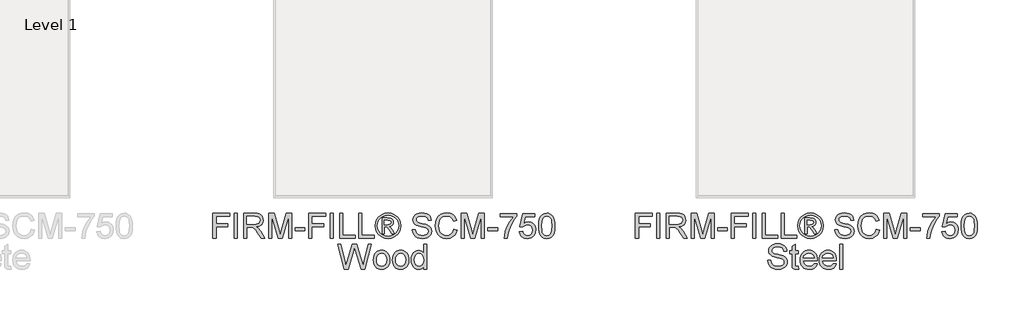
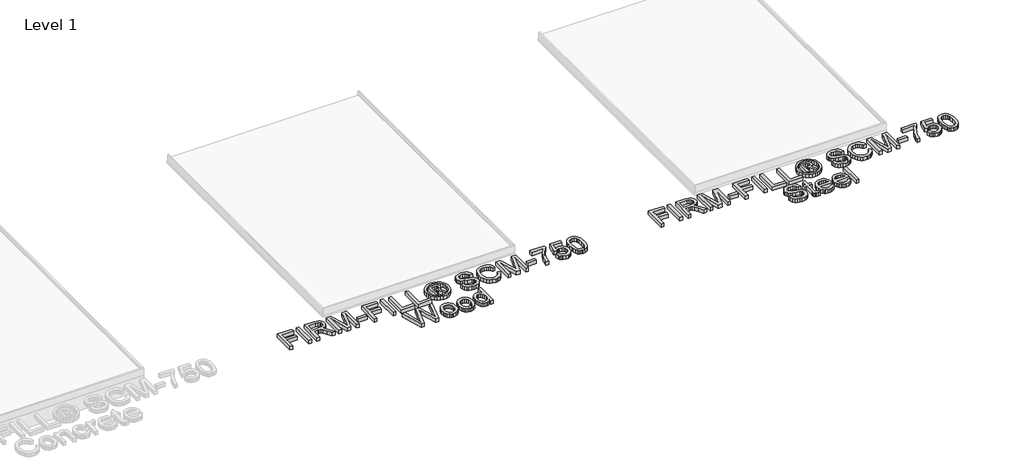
# One storey, part 7 of 10: 2 proxies.
"""IFC4 building model written with IfcOpenShell, lengths in millimetres."""

from ifc_helpers import new_model, si_unit, origin, origin_with_axes, place, context, project, spatial, polyline, outline, extrude, element, save

model = new_model("IFC4")

# Units and contexts
model_context = context("Model", 3, world=origin())
ifc_project = project(units=[si_unit("LENGTHUNIT", "METRE", prefix="MILLI")], contexts=[model_context])

# Site, building, storey
site = spatial("IfcSite", under=ifc_project)
building = spatial("IfcBuilding", under=site)
storey = spatial("IfcBuildingStorey", under=building, Name="Level 1", Elevation=0.0)

# Proxies
placement = place(None, origin())
element("IfcBuildingElementProxy", 1, Name="600mm Arial", ObjectType="600mm Arial", at=placement, inside=storey, context=model_context, shape_type="SweptSolid", body=[
    extrude(outline(polyline([(-312.4048462, -19301.1364307), (-312.4048462, -19001.0256615), (-110.7679231, -19001.0256615), (-110.7679231, -19038.5395076), (-274.891, -19038.5395076), (-274.891, -19127.6348922), (-134.2140769, -19127.6348922), (-134.2140769, -19165.1487384), (-274.891, -19165.1487384), (-274.891, -19301.1364307), (-312.4048462, -19301.1364307)])), origin_with_axes(), (0.0, 0.0, 1.0), 50.8),
    extrude(outline(polyline([(-54.4971539, -19301.1364307), (-54.4971539, -19001.0256615), (-16.9833077, -19001.0256615), (-16.9833077, -19301.1364307), (-54.4971539, -19301.1364307)])), origin_with_axes(), (0.0, 0.0, 1.0), 50.8),
    extrude(outline(polyline([(58.0443846, -19301.1364307), (58.0443846, -19001.0256615), (187.3645769, -19001.0256615), (222.1216682, -19003.049724), (247.4087115, -19009.1219115), (265.890875, -19020.3321038), (280.2333269, -19037.7701807), (289.437774, -19059.3937624), (292.5059231, -19083.1604692), (287.4228702, -19112.7246038), (272.1737115, -19137.2331615), (260.6223594, -19147.2206735), (246.3005144, -19155.2024403), (209.3453461, -19165.1487384), (230.6666923, -19181.1946999), (261.0734231, -19219.8075846), (311.1163077, -19301.1364307), (267.5211154, -19301.1364307), (228.4686154, -19238.9308538), (200.2599615, -19197.7535461), (180.4406346, -19178.3005653), (162.5995769, -19171.1568153), (140.8386154, -19169.8379692), (95.5582307, -19169.8379692), (95.5582307, -19301.1364307), (58.0443846, -19301.1364307)]), holes=[polyline([(95.5582307, -19132.324123), (179.5247692, -19132.324123), (203.6395048, -19130.9961182), (222.3506346, -19127.0121038), (236.4366442, -19120.1064788), (246.6760192, -19110.0136422), (252.9130625, -19097.8051567), (254.9920769, -19084.5525846), (251.0263798, -19066.2535942), (239.1292884, -19051.5081615), (218.6596971, -19041.7816711), (188.9765, -19038.5395076), (95.5582307, -19038.5395076), (95.5582307, -19132.324123)])]), origin_with_axes(), (0.0, 0.0, 1.0), 50.8),
    extrude(outline(polyline([(358.1551538, -19301.1364307), (358.1551538, -19001.0256615), (422.7053461, -19001.0256615), (484.1049615, -19212.5539307), (496.4874615, -19256.7352769), (509.8957307, -19208.8904692), (570.2695769, -19001.0256615), (634.8197692, -19001.0256615), (634.8197692, -19301.1364307), (597.3059231, -19301.1364307), (597.3059231, -19038.5395076), (521.9118846, -19301.1364307), (471.0630384, -19301.1364307), (395.669, -19038.5395076), (395.669, -19301.1364307), (358.1551538, -19301.1364307)])), origin_with_axes(), (0.0, 0.0, 1.0), 50.8),
    extrude(outline(polyline([(677.0228461, -19212.0410461), (677.0228461, -19174.5271999), (794.2536154, -19174.5271999), (794.2536154, -19212.0410461), (677.0228461, -19212.0410461)])), origin_with_axes(), (0.0, 0.0, 1.0), 50.8),
    extrude(outline(polyline([(841.1459231, -19301.1364307), (841.1459231, -19001.0256615), (1042.7828461, -19001.0256615), (1042.7828461, -19038.5395076), (878.6597692, -19038.5395076), (878.6597692, -19127.6348922), (1019.3366923, -19127.6348922), (1019.3366923, -19165.1487384), (878.6597692, -19165.1487384), (878.6597692, -19301.1364307), (841.1459231, -19301.1364307)])), origin_with_axes(), (0.0, 0.0, 1.0), 50.8),
    extrude(outline(polyline([(1099.0536154, -19301.1364307), (1099.0536154, -19001.0256615), (1136.5674615, -19001.0256615), (1136.5674615, -19301.1364307), (1099.0536154, -19301.1364307)])), origin_with_axes(), (0.0, 0.0, 1.0), 50.8),
    extrude(outline(polyline([(1211.5951538, -19301.1364307), (1211.5951538, -19001.0256615), (1249.109, -19001.0256615), (1249.109, -19263.6225846), (1399.1643846, -19263.6225846), (1399.1643846, -19301.1364307), (1211.5951538, -19301.1364307)])), origin_with_axes(), (0.0, 0.0, 1.0), 50.8),
    extrude(outline(polyline([(1441.3674615, -19301.1364307), (1441.3674615, -19001.0256615), (1478.8813077, -19001.0256615), (1478.8813077, -19263.6225846), (1628.9366923, -19263.6225846), (1628.9366923, -19301.1364307), (1441.3674615, -19301.1364307)])), origin_with_axes(), (0.0, 0.0, 1.0), 50.8),
    extrude(outline(polyline([(1722.7213077, -19244.8656615), (1722.7213077, -19057.2964307), (1783.3149615, -19057.2964307), (1810.0948654, -19058.5878009), (1828.3022692, -19062.4619115), (1840.8038317, -19069.5507096), (1850.4662115, -19080.4861422), (1856.6483029, -19093.7570317), (1858.709, -19107.8521999), (1855.1554423, -19126.9754692), (1844.4947692, -19143.4610461), (1827.9725577, -19155.2940269), (1806.8343846, -19160.4595076), (1821.4882307, -19170.424123), (1847.0591923, -19207.8646999), (1868.0874615, -19244.8656615), (1836.4351538, -19244.8656615), (1819.9495769, -19215.1183538), (1792.3270769, -19172.0360461), (1782.2342404, -19166.614123), (1768.3680384, -19165.1487384), (1750.8566923, -19165.1487384), (1750.8566923, -19244.8656615), (1722.7213077, -19244.8656615)]), holes=[polyline([(1750.8566923, -19137.0133538), (1786.4655384, -19137.0133538), (1807.9151057, -19135.2274163), (1821.2684231, -19129.8696038), (1828.2473173, -19121.5627047), (1830.5736154, -19110.9295076), (1826.1041923, -19097.3014307), (1813.6850577, -19088.3625846), (1784.1941923, -19085.4318153), (1750.8566923, -19085.4318153), (1750.8566923, -19137.0133538)])]), origin_with_axes(), (0.0, 0.0, 1.0), 50.8),
    extrude(outline(polyline([(1793.1330384, -18996.3364307), (1831.6543365, -19001.3370557), (1869.2597692, -19016.3389307), (1902.2950336, -19040.645998), (1927.1058269, -19073.5621999), (1942.6297452, -19111.5706134), (1947.8043846, -19151.1543153), (1942.7030144, -19190.3899884), (1927.3989038, -19228.0870076), (1902.8903461, -19260.8841471), (1870.1756346, -19285.4201807), (1832.5060913, -19300.7242913), (1793.1330384, -19305.8256615), (1753.8149375, -19300.7242913), (1716.1637115, -19285.4201807), (1683.421524, -19260.8841471), (1658.8305384, -19228.0870076), (1643.444, -19190.3899884), (1638.3151538, -19151.1543153), (1643.5172692, -19111.5706134), (1659.1236154, -19073.5621999), (1684.0168365, -19040.645998), (1717.0795769, -19016.3389307), (1754.6666923, -19001.3370557), (1793.1330384, -18996.3364307)]), holes=[polyline([(1793.1330384, -19024.4718153), (1761.6089519, -19028.5657336), (1730.9274615, -19040.8474884), (1703.9552259, -19060.7492432), (1683.5589038, -19087.7031615), (1670.7276298, -19118.8059499), (1666.4505384, -19151.1543153), (1670.6452019, -19183.2920317), (1683.2291923, -19214.0559499), (1703.3599134, -19240.8083778), (1730.1947692, -19260.911623), (1761.0227981, -19273.4956134), (1793.1330384, -19277.6902769), (1825.2890721, -19273.4956134), (1856.1079423, -19260.911623), (1882.8970048, -19240.8083778), (1902.9636154, -19214.0559499), (1915.4926538, -19183.2920317), (1919.669, -19151.1543153), (1915.4193846, -19118.8059499), (1902.6705384, -19087.7031615), (1882.3291682, -19060.7492432), (1855.3019807, -19040.8474884), (1824.5746971, -19028.5657336), (1793.1330384, -19024.4718153)])]), origin_with_axes(), (0.0, 0.0, 1.0), 50.8),
    extrude(outline(polyline([(2083.7920769, -19197.9733538), (2121.3059231, -19197.9733538), (2125.6104904, -19218.790974), (2133.3953461, -19235.5238346), (2145.5397211, -19248.8038826), (2162.9228461, -19259.2630653), (2184.1709231, -19266.0496278), (2207.9101538, -19268.3118153), (2228.8102019, -19266.5991471), (2247.1091923, -19261.4611422), (2261.9370529, -19253.3282576), (2272.4237115, -19242.6309499), (2278.6607548, -19230.3491951), (2280.7397692, -19217.4629692), (2279.1827981, -19204.9064547), (2274.5118846, -19194.0534499), (2265.0235192, -19184.7940509), (2249.0141923, -19177.0183538), (2194.3919807, -19162.6942192), (2158.5358509, -19153.2150124), (2135.5934231, -19144.1937384), (2116.9189279, -19131.5731134), (2103.6846731, -19116.2781615), (2095.7990721, -19098.6385942), (2093.1705384, -19078.984123), (2096.4218606, -19057.0125124), (2106.1758269, -19036.5246038), (2122.1759952, -19019.1597961), (2144.1659231, -19006.5574884), (2170.5611634, -18998.8916951), (2199.7772692, -18996.3364307), (2231.4295769, -18999.0107576), (2259.1253461, -19007.0337384), (2281.8754423, -19020.2405172), (2298.6907307, -19038.4662384), (2309.3330865, -19060.5752288), (2313.5643846, -19085.4318153), (2276.0505384, -19085.4318153), (2269.1632307, -19063.0480653), (2254.8024615, -19046.8921999), (2232.3637596, -19037.1107576), (2201.2426538, -19033.8502769), (2169.3888557, -19037.074123), (2147.5363077, -19046.7456615), (2134.8973654, -19060.9782096), (2130.6843846, -19077.8850846), (2133.6701057, -19092.3008057), (2142.6272692, -19103.8956615), (2163.8020769, -19114.2632576), (2203.8803461, -19124.8506615), (2245.2408269, -19134.9068634), (2270.2622692, -19143.6808538), (2291.6477259, -19157.2906134), (2306.5671731, -19174.0875846), (2315.3320048, -19193.8885942), (2318.2536154, -19216.5104692), (2314.8923894, -19239.6360701), (2304.8087115, -19261.387873), (2288.4147211, -19280.1081615), (2266.1225577, -19294.1392192), (2239.3151779, -19302.9040509), (2209.3755384, -19305.8256615), (2172.6218606, -19302.6750846), (2142.3708269, -19293.2233538), (2118.2744086, -19277.4338346), (2099.9845769, -19255.2698922), (2088.2431827, -19228.2701807), (2083.7920769, -19197.9733538)])), origin_with_axes(), (0.0, 0.0, 1.0), 50.8),
    extrude(outline(polyline([(2585.5397692, -19194.4564307), (2623.0536154, -19204.1279692), (2615.6305264, -19227.4573502), (2605.7437596, -19247.842224), (2593.3933149, -19265.2825906), (2578.5791923, -19279.7784499), (2561.6356827, -19291.174105), (2542.8970769, -19299.3138586), (2522.363375, -19304.1977108), (2500.0345769, -19305.8256615), (2456.5218125, -19300.8983057), (2421.9662115, -19286.1162384), (2395.4793846, -19261.9923442), (2376.1729423, -19229.0395076), (2364.3857548, -19190.2984019), (2360.4566923, -19148.8096999), (2364.8986394, -19105.0496519), (2378.2244807, -19067.2610461), (2399.7381586, -19036.6436663), (2428.7436154, -19014.3972961), (2463.1435192, -19000.8516471), (2500.8405384, -18996.3364307), (2541.9720529, -19002.1796519), (2559.8657728, -19009.4836783), (2575.9781346, -19019.7093153), (2590.0435372, -19032.5863826), (2601.7963798, -19047.8446999), (2618.3643846, -19085.5050846), (2580.8505384, -19094.4439307), (2567.84525, -19067.0870317), (2550.0774615, -19048.3209499), (2527.3273654, -19037.4679451), (2499.3751538, -19033.8502769), (2467.1550096, -19037.8617672), (2440.6865, -19049.8962384), (2420.6015721, -19068.6897961), (2407.5321731, -19092.9785461), (2400.3609471, -19120.4361903), (2397.9705384, -19148.7364307), (2400.8005625, -19183.3927769), (2409.2906346, -19213.3598922), (2423.7613077, -19237.4929451), (2444.5331346, -19254.6471038), (2469.4355144, -19264.8956374), (2496.2978461, -19268.3118153), (2527.6112836, -19263.6592192), (2553.7042884, -19249.7014307), (2573.4045529, -19226.5849884), (2585.5397692, -19194.4564307)])), origin_with_axes(), (0.0, 0.0, 1.0), 50.8),
    extrude(outline(polyline([(2674.6351538, -19301.1364307), (2674.6351538, -19001.0256615), (2739.1853461, -19001.0256615), (2800.5849615, -19212.5539307), (2812.9674615, -19256.7352769), (2826.3757307, -19208.8904692), (2886.7495769, -19001.0256615), (2951.2997692, -19001.0256615), (2951.2997692, -19301.1364307), (2913.7859231, -19301.1364307), (2913.7859231, -19038.5395076), (2838.3918846, -19301.1364307), (2787.5430384, -19301.1364307), (2712.149, -19038.5395076), (2712.149, -19301.1364307), (2674.6351538, -19301.1364307)])), origin_with_axes(), (0.0, 0.0, 1.0), 50.8),
    extrude(outline(polyline([(2993.5028461, -19212.0410461), (2993.5028461, -19174.5271999), (3110.7336154, -19174.5271999), (3110.7336154, -19212.0410461), (2993.5028461, -19212.0410461)])), origin_with_axes(), (0.0, 0.0, 1.0), 50.8),
    extrude(outline(polyline([(3143.5582307, -19043.2287384), (3143.5582307, -19005.7148922), (3340.5059231, -19005.7148922), (3340.5059231, -19036.0483538), (3312.434649, -19071.5747721), (3284.6381346, -19116.7544115), (3260.1204182, -19167.4658778), (3241.8855384, -19219.5877769), (3232.9466923, -19258.5853249), (3227.9643846, -19301.1364307), (3190.4505384, -19301.1364307), (3194.5078221, -19262.4685942), (3205.3608269, -19216.5104692), (3222.7164759, -19167.7955894), (3246.2816923, -19120.8574884), (3273.7942884, -19078.4254451), (3302.9920769, -19043.2287384), (3143.5582307, -19043.2287384)])), origin_with_axes(), (0.0, 0.0, 1.0), 50.8),
    extrude(outline(polyline([(3373.3305384, -19221.4195076), (3410.8443846, -19216.7302769), (3417.7316923, -19239.2514067), (3429.7478461, -19255.3797961), (3446.8378942, -19265.0788105), (3468.9468846, -19268.3118153), (3495.8366923, -19263.8149163), (3515.9857307, -19250.3242192), (3528.5697211, -19229.3966951), (3532.7643846, -19202.5893153), (3528.8353221, -19177.3480653), (3517.0481346, -19158.041623), (3497.3112356, -19145.7873442), (3469.5330384, -19141.7025846), (3451.3347932, -19143.3328249), (3436.5985192, -19148.2235461), (3415.5336154, -19165.1487384), (3378.0197692, -19160.4595076), (3410.8443846, -19005.7148922), (3556.2105384, -19005.7148922), (3556.2105384, -19043.2287384), (3441.1778461, -19043.2287384), (3425.1318846, -19125.8764307), (3451.9301057, -19109.6106615), (3480.0105384, -19104.1887384), (3498.2797632, -19105.8693514), (3515.0607067, -19110.9111903), (3530.353369, -19119.3142552), (3544.15775, -19131.0785461), (3555.5854603, -19145.4851086), (3563.7481106, -19161.8149884), (3568.6457007, -19180.0681855), (3570.2782307, -19200.2446999), (3564.398375, -19237.7585461), (3557.0485553, -19254.482248), (3546.7588077, -19269.8504692), (3531.1707788, -19285.5896158), (3512.9816923, -19296.8318634), (3492.1915481, -19303.577212), (3468.8003461, -19305.8256615), (3431.9550817, -19300.0465509), (3416.3418666, -19292.8226627), (3402.6015961, -19282.7092192), (3391.1693065, -19270.2099463), (3382.4800336, -19255.8285701), (3373.3305384, -19221.4195076)])), origin_with_axes(), (0.0, 0.0, 1.0), 50.8),
    extrude(outline(polyline([(3603.1028461, -19153.4989307), (3605.8596009, -19105.4617913), (3614.1298654, -19067.1511422), (3627.8312115, -19037.9808297), (3646.8812115, -19017.3646999), (3671.4172452, -19005.1104211), (3701.5766923, -19001.0256615), (3724.6931346, -19003.4435461), (3745.3916923, -19010.6971999), (3762.7015481, -19022.5027047), (3775.6518846, -19038.5761422), (3785.4333269, -19058.7801326), (3793.2365, -19082.9772961), (3798.3470288, -19113.7045797), (3800.0505384, -19153.4989307), (3797.3212596, -19201.2613105), (3789.1334231, -19239.480373), (3775.5145048, -19268.6781615), (3756.4919807, -19289.3767192), (3731.9009952, -19301.7134259), (3701.5766923, -19305.8256615), (3680.9147692, -19304.039724), (3662.5974615, -19298.6819115), (3646.6247692, -19289.752224), (3632.9966923, -19277.2506615), (3619.9181346, -19254.6516831), (3610.5763077, -19226.4934019), (3604.9712115, -19192.7758177), (3603.1028461, -19153.4989307)]), holes=[polyline([(3640.6166923, -19153.4256615), (3645.0128461, -19212.4348682), (3650.5080384, -19232.6182516), (3658.2013077, -19246.5874884), (3677.8374615, -19262.8807336), (3701.5766923, -19268.3118153), (3725.3159231, -19262.8624163), (3744.9520769, -19246.5142192), (3752.6453461, -19232.5220858), (3758.1405384, -19212.3432817), (3762.5366923, -19153.4256615), (3758.2870769, -19095.7444596), (3752.9750577, -19075.6274764), (3745.5382307, -19061.3262384), (3725.9387115, -19044.2361903), (3701.1370769, -19038.5395076), (3677.6542884, -19043.5584499), (3658.7874615, -19058.6152769), (3650.83775, -19074.1849884), (3645.1593846, -19095.176623), (3640.6166923, -19153.4256615)])]), origin_with_axes(), (0.0, 0.0, 1.0), 50.8),
    extrude(outline(polyline([(1267.6461154, -19671.5856615), (1185.8043846, -19371.4748922), (1224.4905384, -19371.4748922), (1271.969, -19568.7156615), (1286.6228461, -19629.6023922), (1302.3024615, -19575.7495076), (1361.7970769, -19371.4748922), (1417.5549615, -19371.4748922), (1460.7838077, -19519.5520076), (1479.3026057, -19574.5039307), (1492.949, -19629.6023922), (1507.1632307, -19570.474123), (1555.0813077, -19371.4748922), (1593.7674615, -19371.4748922), (1511.8524615, -19671.5856615), (1471.7741923, -19671.5856615), (1399.8238077, -19440.0548922), (1389.7859231, -19407.7431615), (1378.5024615, -19446.649123), (1312.9265, -19671.5856615), (1267.6461154, -19671.5856615)])), origin_with_axes(), (0.0, 0.0, 1.0), 50.8),
    extrude(outline(polyline([(1617.2136154, -19561.3887384), (1619.2422572, -19532.8457937), (1625.3281827, -19508.2502288), (1635.4713918, -19487.6020437), (1649.6718846, -19470.9012384), (1663.9685432, -19460.2268273), (1679.7489038, -19452.602248), (1697.0129663, -19448.0275004), (1715.7607307, -19446.5025846), (1736.4569988, -19448.3595016), (1755.1704182, -19453.9302528), (1771.9009892, -19463.2148382), (1786.6487115, -19476.2132576), (1798.6854723, -19492.4858959), (1807.2831586, -19511.5931374), (1812.4417704, -19533.5349824), (1814.1613077, -19558.3114307), (1811.1206346, -19596.2099403), (1801.9986154, -19625.0596999), (1787.0608509, -19646.6649644), (1766.5729423, -19662.8299884), (1742.238399, -19672.9136663), (1715.7607307, -19676.2748922), (1694.7622271, -19674.4248442), (1675.8747932, -19668.8746999), (1659.0984291, -19659.6244596), (1644.4331346, -19646.674123), (1632.5245949, -19630.243498), (1624.0184952, -19610.5523922), (1618.9148353, -19587.6008057), (1617.2136154, -19561.3887384)]), holes=[polyline([(1654.7274615, -19561.3154692), (1659.0686634, -19595.266599), (1672.0922692, -19619.4546038), (1691.6917884, -19633.9344355), (1715.7607307, -19638.7610461), (1739.7197692, -19633.9069596), (1759.2826538, -19619.3446999), (1772.3062596, -19594.8361422), (1776.6474615, -19560.1431615), (1772.2787836, -19527.1811663), (1759.17275, -19503.322873), (1739.5823894, -19488.8430413), (1715.7607307, -19484.0164307), (1691.6917884, -19488.824724), (1672.0922692, -19503.2496038), (1659.0686634, -19527.3826567), (1654.7274615, -19561.3154692)])]), origin_with_axes(), (0.0, 0.0, 1.0), 50.8),
    extrude(outline(polyline([(1846.9859231, -19561.3887384), (1849.0145649, -19532.8457937), (1855.1004904, -19508.2502288), (1865.2436995, -19487.6020437), (1879.4441923, -19470.9012384), (1893.7408509, -19460.2268273), (1909.5212115, -19452.602248), (1926.785274, -19448.0275004), (1945.5330384, -19446.5025846), (1966.2293065, -19448.3595016), (1984.9427259, -19453.9302528), (2001.6732969, -19463.2148382), (2016.4210192, -19476.2132576), (2028.45778, -19492.4858959), (2037.0554663, -19511.5931374), (2042.2140781, -19533.5349824), (2043.9336154, -19558.3114307), (2040.8929423, -19596.2099403), (2031.7709231, -19625.0596999), (2016.8331586, -19646.6649644), (1996.34525, -19662.8299884), (1972.0107067, -19672.9136663), (1945.5330384, -19676.2748922), (1924.5345348, -19674.4248442), (1905.6471009, -19668.8746999), (1888.8707368, -19659.6244596), (1874.2054423, -19646.674123), (1862.2969026, -19630.243498), (1853.7908029, -19610.5523922), (1848.687143, -19587.6008057), (1846.9859231, -19561.3887384)]), holes=[polyline([(1884.4997692, -19561.3154692), (1888.8409711, -19595.266599), (1901.8645769, -19619.4546038), (1921.4640961, -19633.9344355), (1945.5330384, -19638.7610461), (1969.4920769, -19633.9069596), (1989.0549615, -19619.3446999), (2002.0785673, -19594.8361422), (2006.4197692, -19560.1431615), (2002.0510913, -19527.1811663), (1988.9450577, -19503.322873), (1969.3546971, -19488.8430413), (1945.5330384, -19484.0164307), (1921.4640961, -19488.824724), (1901.8645769, -19503.2496038), (1888.8409711, -19527.3826567), (1884.4997692, -19561.3154692)])]), origin_with_axes(), (0.0, 0.0, 1.0), 50.8),
    extrude(outline(polyline([(2222.1243846, -19671.5856615), (2222.1243846, -19636.196623), (2210.9004543, -19653.7308658), (2197.3044327, -19666.2553249), (2181.3363197, -19673.7700004), (2162.9961154, -19676.2748922), (2138.744, -19672.6480653), (2116.5434231, -19661.7675846), (2097.7498654, -19644.3936182), (2083.7188077, -19621.2863346), (2074.9814519, -19593.3799163), (2072.069, -19561.6085461), (2074.7524856, -19530.230998), (2082.8029423, -19501.894123), (2096.2112115, -19478.2098442), (2114.9681346, -19460.7900846), (2137.6541202, -19450.0744596), (2162.8495769, -19446.5025846), (2181.2035192, -19449.057849), (2197.4326538, -19456.7236422), (2211.1889519, -19468.4741951), (2222.1243846, -19483.2837384), (2222.1243846, -19371.4748922), (2259.6382307, -19371.4748922), (2259.6382307, -19671.5856615), (2222.1243846, -19671.5856615)]), holes=[polyline([(2109.5828461, -19561.4620076), (2113.8141442, -19595.3948201), (2126.5080384, -19619.527873), (2144.9535673, -19633.9527528), (2166.4397692, -19638.7610461), (2187.9168125, -19634.1725605), (2205.89525, -19620.4071038), (2218.0671009, -19597.2082336), (2222.1243846, -19564.3195076), (2217.9938317, -19528.3626326), (2205.6021731, -19503.4327769), (2187.1658029, -19488.8705172), (2164.9011154, -19484.0164307), (2143.1951057, -19488.6781855), (2125.409, -19502.6634499), (2113.5393846, -19526.686599), (2109.5828461, -19561.4620076)])]), origin_with_axes(), (0.0, 0.0, 1.0), 50.8),
])
element("IfcBuildingElementProxy", 2, Name="600mm Arial", ObjectType="600mm Arial", at=placement, inside=storey, context=model_context, shape_type="SweptSolid", body=[
    extrude(outline(polyline([(4767.5951538, -19301.1364307), (4767.5951538, -19001.0256615), (4969.2320769, -19001.0256615), (4969.2320769, -19038.5395076), (4805.109, -19038.5395076), (4805.109, -19127.6348922), (4945.7859231, -19127.6348922), (4945.7859231, -19165.1487384), (4805.109, -19165.1487384), (4805.109, -19301.1364307), (4767.5951538, -19301.1364307)])), origin_with_axes(), (0.0, 0.0, 1.0), 50.8),
    extrude(outline(polyline([(5025.5028461, -19301.1364307), (5025.5028461, -19001.0256615), (5063.0166923, -19001.0256615), (5063.0166923, -19301.1364307), (5025.5028461, -19301.1364307)])), origin_with_axes(), (0.0, 0.0, 1.0), 50.8),
    extrude(outline(polyline([(5138.0443846, -19301.1364307), (5138.0443846, -19001.0256615), (5267.3645769, -19001.0256615), (5302.1216682, -19003.049724), (5327.4087115, -19009.1219115), (5345.890875, -19020.3321038), (5360.2333269, -19037.7701807), (5369.437774, -19059.3937624), (5372.5059231, -19083.1604692), (5367.4228702, -19112.7246038), (5352.1737115, -19137.2331615), (5340.6223594, -19147.2206735), (5326.3005144, -19155.2024403), (5289.3453461, -19165.1487384), (5310.6666923, -19181.1946999), (5341.0734231, -19219.8075846), (5391.1163077, -19301.1364307), (5347.5211154, -19301.1364307), (5308.4686154, -19238.9308538), (5280.2599615, -19197.7535461), (5260.4406346, -19178.3005653), (5242.5995769, -19171.1568153), (5220.8386154, -19169.8379692), (5175.5582307, -19169.8379692), (5175.5582307, -19301.1364307), (5138.0443846, -19301.1364307)]), holes=[polyline([(5175.5582307, -19132.324123), (5259.5247692, -19132.324123), (5283.6395048, -19130.9961182), (5302.3506346, -19127.0121038), (5316.4366442, -19120.1064788), (5326.6760192, -19110.0136422), (5332.9130625, -19097.8051567), (5334.9920769, -19084.5525846), (5331.0263798, -19066.2535942), (5319.1292884, -19051.5081615), (5298.6596971, -19041.7816711), (5268.9765, -19038.5395076), (5175.5582307, -19038.5395076), (5175.5582307, -19132.324123)])]), origin_with_axes(), (0.0, 0.0, 1.0), 50.8),
    extrude(outline(polyline([(5438.1551538, -19301.1364307), (5438.1551538, -19001.0256615), (5502.7053461, -19001.0256615), (5564.1049615, -19212.5539307), (5576.4874615, -19256.7352769), (5589.8957307, -19208.8904692), (5650.2695769, -19001.0256615), (5714.8197692, -19001.0256615), (5714.8197692, -19301.1364307), (5677.3059231, -19301.1364307), (5677.3059231, -19038.5395076), (5601.9118846, -19301.1364307), (5551.0630384, -19301.1364307), (5475.669, -19038.5395076), (5475.669, -19301.1364307), (5438.1551538, -19301.1364307)])), origin_with_axes(), (0.0, 0.0, 1.0), 50.8),
    extrude(outline(polyline([(5757.0228461, -19212.0410461), (5757.0228461, -19174.5271999), (5874.2536154, -19174.5271999), (5874.2536154, -19212.0410461), (5757.0228461, -19212.0410461)])), origin_with_axes(), (0.0, 0.0, 1.0), 50.8),
    extrude(outline(polyline([(5921.1459231, -19301.1364307), (5921.1459231, -19001.0256615), (6122.7828461, -19001.0256615), (6122.7828461, -19038.5395076), (5958.6597692, -19038.5395076), (5958.6597692, -19127.6348922), (6099.3366923, -19127.6348922), (6099.3366923, -19165.1487384), (5958.6597692, -19165.1487384), (5958.6597692, -19301.1364307), (5921.1459231, -19301.1364307)])), origin_with_axes(), (0.0, 0.0, 1.0), 50.8),
    extrude(outline(polyline([(6179.0536154, -19301.1364307), (6179.0536154, -19001.0256615), (6216.5674615, -19001.0256615), (6216.5674615, -19301.1364307), (6179.0536154, -19301.1364307)])), origin_with_axes(), (0.0, 0.0, 1.0), 50.8),
    extrude(outline(polyline([(6291.5951538, -19301.1364307), (6291.5951538, -19001.0256615), (6329.109, -19001.0256615), (6329.109, -19263.6225846), (6479.1643846, -19263.6225846), (6479.1643846, -19301.1364307), (6291.5951538, -19301.1364307)])), origin_with_axes(), (0.0, 0.0, 1.0), 50.8),
    extrude(outline(polyline([(6521.3674615, -19301.1364307), (6521.3674615, -19001.0256615), (6558.8813077, -19001.0256615), (6558.8813077, -19263.6225846), (6708.9366923, -19263.6225846), (6708.9366923, -19301.1364307), (6521.3674615, -19301.1364307)])), origin_with_axes(), (0.0, 0.0, 1.0), 50.8),
    extrude(outline(polyline([(6802.7213077, -19244.8656615), (6802.7213077, -19057.2964307), (6863.3149615, -19057.2964307), (6890.0948654, -19058.5878009), (6908.3022692, -19062.4619115), (6920.8038317, -19069.5507096), (6930.4662115, -19080.4861422), (6936.6483029, -19093.7570317), (6938.709, -19107.8521999), (6935.1554423, -19126.9754692), (6924.4947692, -19143.4610461), (6907.9725577, -19155.2940269), (6886.8343846, -19160.4595076), (6901.4882307, -19170.424123), (6927.0591923, -19207.8646999), (6948.0874615, -19244.8656615), (6916.4351538, -19244.8656615), (6899.9495769, -19215.1183538), (6872.3270769, -19172.0360461), (6862.2342404, -19166.614123), (6848.3680384, -19165.1487384), (6830.8566923, -19165.1487384), (6830.8566923, -19244.8656615), (6802.7213077, -19244.8656615)]), holes=[polyline([(6830.8566923, -19137.0133538), (6866.4655384, -19137.0133538), (6887.9151057, -19135.2274163), (6901.2684231, -19129.8696038), (6908.2473173, -19121.5627047), (6910.5736154, -19110.9295076), (6906.1041923, -19097.3014307), (6893.6850577, -19088.3625846), (6864.1941923, -19085.4318153), (6830.8566923, -19085.4318153), (6830.8566923, -19137.0133538)])]), origin_with_axes(), (0.0, 0.0, 1.0), 50.8),
    extrude(outline(polyline([(6873.1330384, -18996.3364307), (6911.6543365, -19001.3370557), (6949.2597692, -19016.3389307), (6982.2950336, -19040.645998), (7007.1058269, -19073.5621999), (7022.6297452, -19111.5706134), (7027.8043846, -19151.1543153), (7022.7030144, -19190.3899884), (7007.3989038, -19228.0870076), (6982.8903461, -19260.8841471), (6950.1756346, -19285.4201807), (6912.5060913, -19300.7242913), (6873.1330384, -19305.8256615), (6833.8149375, -19300.7242913), (6796.1637115, -19285.4201807), (6763.421524, -19260.8841471), (6738.8305384, -19228.0870076), (6723.444, -19190.3899884), (6718.3151538, -19151.1543153), (6723.5172692, -19111.5706134), (6739.1236154, -19073.5621999), (6764.0168365, -19040.645998), (6797.0795769, -19016.3389307), (6834.6666923, -19001.3370557), (6873.1330384, -18996.3364307)]), holes=[polyline([(6873.1330384, -19024.4718153), (6841.6089519, -19028.5657336), (6810.9274615, -19040.8474884), (6783.9552259, -19060.7492432), (6763.5589038, -19087.7031615), (6750.7276298, -19118.8059499), (6746.4505384, -19151.1543153), (6750.6452019, -19183.2920317), (6763.2291923, -19214.0559499), (6783.3599134, -19240.8083778), (6810.1947692, -19260.911623), (6841.0227981, -19273.4956134), (6873.1330384, -19277.6902769), (6905.2890721, -19273.4956134), (6936.1079423, -19260.911623), (6962.8970048, -19240.8083778), (6982.9636154, -19214.0559499), (6995.4926538, -19183.2920317), (6999.669, -19151.1543153), (6995.4193846, -19118.8059499), (6982.6705384, -19087.7031615), (6962.3291682, -19060.7492432), (6935.3019807, -19040.8474884), (6904.5746971, -19028.5657336), (6873.1330384, -19024.4718153)])]), origin_with_axes(), (0.0, 0.0, 1.0), 50.8),
    extrude(outline(polyline([(7163.7920769, -19197.9733538), (7201.3059231, -19197.9733538), (7205.6104904, -19218.790974), (7213.3953461, -19235.5238346), (7225.5397211, -19248.8038826), (7242.9228461, -19259.2630653), (7264.1709231, -19266.0496278), (7287.9101538, -19268.3118153), (7308.8102019, -19266.5991471), (7327.1091923, -19261.4611422), (7341.9370529, -19253.3282576), (7352.4237115, -19242.6309499), (7358.6607548, -19230.3491951), (7360.7397692, -19217.4629692), (7359.1827981, -19204.9064547), (7354.5118846, -19194.0534499), (7345.0235192, -19184.7940509), (7329.0141923, -19177.0183538), (7274.3919807, -19162.6942192), (7238.5358509, -19153.2150124), (7215.5934231, -19144.1937384), (7196.9189279, -19131.5731134), (7183.6846731, -19116.2781615), (7175.7990721, -19098.6385942), (7173.1705384, -19078.984123), (7176.4218606, -19057.0125124), (7186.1758269, -19036.5246038), (7202.1759952, -19019.1597961), (7224.1659231, -19006.5574884), (7250.5611634, -18998.8916951), (7279.7772692, -18996.3364307), (7311.4295769, -18999.0107576), (7339.1253461, -19007.0337384), (7361.8754423, -19020.2405172), (7378.6907307, -19038.4662384), (7389.3330865, -19060.5752288), (7393.5643846, -19085.4318153), (7356.0505384, -19085.4318153), (7349.1632307, -19063.0480653), (7334.8024615, -19046.8921999), (7312.3637596, -19037.1107576), (7281.2426538, -19033.8502769), (7249.3888557, -19037.074123), (7227.5363077, -19046.7456615), (7214.8973654, -19060.9782096), (7210.6843846, -19077.8850846), (7213.6701057, -19092.3008057), (7222.6272692, -19103.8956615), (7243.8020769, -19114.2632576), (7283.8803461, -19124.8506615), (7325.2408269, -19134.9068634), (7350.2622692, -19143.6808538), (7371.6477259, -19157.2906134), (7386.5671731, -19174.0875846), (7395.3320048, -19193.8885942), (7398.2536154, -19216.5104692), (7394.8923894, -19239.6360701), (7384.8087115, -19261.387873), (7368.4147211, -19280.1081615), (7346.1225577, -19294.1392192), (7319.3151779, -19302.9040509), (7289.3755384, -19305.8256615), (7252.6218606, -19302.6750846), (7222.3708269, -19293.2233538), (7198.2744086, -19277.4338346), (7179.9845769, -19255.2698922), (7168.2431827, -19228.2701807), (7163.7920769, -19197.9733538)])), origin_with_axes(), (0.0, 0.0, 1.0), 50.8),
    extrude(outline(polyline([(7665.5397692, -19194.4564307), (7703.0536154, -19204.1279692), (7695.6305264, -19227.4573502), (7685.7437596, -19247.842224), (7673.3933149, -19265.2825906), (7658.5791923, -19279.7784499), (7641.6356827, -19291.174105), (7622.8970769, -19299.3138586), (7602.363375, -19304.1977108), (7580.0345769, -19305.8256615), (7536.5218125, -19300.8983057), (7501.9662115, -19286.1162384), (7475.4793846, -19261.9923442), (7456.1729423, -19229.0395076), (7444.3857548, -19190.2984019), (7440.4566923, -19148.8096999), (7444.8986394, -19105.0496519), (7458.2244807, -19067.2610461), (7479.7381586, -19036.6436663), (7508.7436154, -19014.3972961), (7543.1435192, -19000.8516471), (7580.8405384, -18996.3364307), (7621.9720529, -19002.1796519), (7639.8657728, -19009.4836783), (7655.9781346, -19019.7093153), (7670.0435372, -19032.5863826), (7681.7963798, -19047.8446999), (7698.3643846, -19085.5050846), (7660.8505384, -19094.4439307), (7647.84525, -19067.0870317), (7630.0774615, -19048.3209499), (7607.3273654, -19037.4679451), (7579.3751538, -19033.8502769), (7547.1550096, -19037.8617672), (7520.6865, -19049.8962384), (7500.6015721, -19068.6897961), (7487.5321731, -19092.9785461), (7480.3609471, -19120.4361903), (7477.9705384, -19148.7364307), (7480.8005625, -19183.3927769), (7489.2906346, -19213.3598922), (7503.7613077, -19237.4929451), (7524.5331346, -19254.6471038), (7549.4355144, -19264.8956374), (7576.2978461, -19268.3118153), (7607.6112836, -19263.6592192), (7633.7042884, -19249.7014307), (7653.4045529, -19226.5849884), (7665.5397692, -19194.4564307)])), origin_with_axes(), (0.0, 0.0, 1.0), 50.8),
    extrude(outline(polyline([(7754.6351538, -19301.1364307), (7754.6351538, -19001.0256615), (7819.1853461, -19001.0256615), (7880.5849615, -19212.5539307), (7892.9674615, -19256.7352769), (7906.3757307, -19208.8904692), (7966.7495769, -19001.0256615), (8031.2997692, -19001.0256615), (8031.2997692, -19301.1364307), (7993.7859231, -19301.1364307), (7993.7859231, -19038.5395076), (7918.3918846, -19301.1364307), (7867.5430384, -19301.1364307), (7792.149, -19038.5395076), (7792.149, -19301.1364307), (7754.6351538, -19301.1364307)])), origin_with_axes(), (0.0, 0.0, 1.0), 50.8),
    extrude(outline(polyline([(8073.5028461, -19212.0410461), (8073.5028461, -19174.5271999), (8190.7336154, -19174.5271999), (8190.7336154, -19212.0410461), (8073.5028461, -19212.0410461)])), origin_with_axes(), (0.0, 0.0, 1.0), 50.8),
    extrude(outline(polyline([(8223.5582307, -19043.2287384), (8223.5582307, -19005.7148922), (8420.5059231, -19005.7148922), (8420.5059231, -19036.0483538), (8392.434649, -19071.5747721), (8364.6381346, -19116.7544115), (8340.1204182, -19167.4658778), (8321.8855384, -19219.5877769), (8312.9466923, -19258.5853249), (8307.9643846, -19301.1364307), (8270.4505384, -19301.1364307), (8274.5078221, -19262.4685942), (8285.3608269, -19216.5104692), (8302.7164759, -19167.7955894), (8326.2816923, -19120.8574884), (8353.7942884, -19078.4254451), (8382.9920769, -19043.2287384), (8223.5582307, -19043.2287384)])), origin_with_axes(), (0.0, 0.0, 1.0), 50.8),
    extrude(outline(polyline([(8453.3305384, -19221.4195076), (8490.8443846, -19216.7302769), (8497.7316923, -19239.2514067), (8509.7478461, -19255.3797961), (8526.8378942, -19265.0788105), (8548.9468846, -19268.3118153), (8575.8366923, -19263.8149163), (8595.9857307, -19250.3242192), (8608.5697211, -19229.3966951), (8612.7643846, -19202.5893153), (8608.8353221, -19177.3480653), (8597.0481346, -19158.041623), (8577.3112356, -19145.7873442), (8549.5330384, -19141.7025846), (8531.3347932, -19143.3328249), (8516.5985192, -19148.2235461), (8495.5336154, -19165.1487384), (8458.0197692, -19160.4595076), (8490.8443846, -19005.7148922), (8636.2105384, -19005.7148922), (8636.2105384, -19043.2287384), (8521.1778461, -19043.2287384), (8505.1318846, -19125.8764307), (8531.9301057, -19109.6106615), (8560.0105384, -19104.1887384), (8578.2797632, -19105.8693514), (8595.0607067, -19110.9111903), (8610.353369, -19119.3142552), (8624.15775, -19131.0785461), (8635.5854603, -19145.4851086), (8643.7481106, -19161.8149884), (8648.6457007, -19180.0681855), (8650.2782307, -19200.2446999), (8644.398375, -19237.7585461), (8637.0485553, -19254.482248), (8626.7588077, -19269.8504692), (8611.1707788, -19285.5896158), (8592.9816923, -19296.8318634), (8572.1915481, -19303.577212), (8548.8003461, -19305.8256615), (8511.9550817, -19300.0465509), (8496.3418666, -19292.8226627), (8482.6015961, -19282.7092192), (8471.1693065, -19270.2099463), (8462.4800336, -19255.8285701), (8453.3305384, -19221.4195076)])), origin_with_axes(), (0.0, 0.0, 1.0), 50.8),
    extrude(outline(polyline([(8683.1028461, -19153.4989307), (8685.8596009, -19105.4617913), (8694.1298654, -19067.1511422), (8707.8312115, -19037.9808297), (8726.8812115, -19017.3646999), (8751.4172452, -19005.1104211), (8781.5766923, -19001.0256615), (8804.6931346, -19003.4435461), (8825.3916923, -19010.6971999), (8842.7015481, -19022.5027047), (8855.6518846, -19038.5761422), (8865.4333269, -19058.7801326), (8873.2365, -19082.9772961), (8878.3470288, -19113.7045797), (8880.0505384, -19153.4989307), (8877.3212596, -19201.2613105), (8869.1334231, -19239.480373), (8855.5145048, -19268.6781615), (8836.4919807, -19289.3767192), (8811.9009952, -19301.7134259), (8781.5766923, -19305.8256615), (8760.9147692, -19304.039724), (8742.5974615, -19298.6819115), (8726.6247692, -19289.752224), (8712.9966923, -19277.2506615), (8699.9181346, -19254.6516831), (8690.5763077, -19226.4934019), (8684.9712115, -19192.7758177), (8683.1028461, -19153.4989307)]), holes=[polyline([(8720.6166923, -19153.4256615), (8725.0128461, -19212.4348682), (8730.5080384, -19232.6182516), (8738.2013077, -19246.5874884), (8757.8374615, -19262.8807336), (8781.5766923, -19268.3118153), (8805.3159231, -19262.8624163), (8824.9520769, -19246.5142192), (8832.6453461, -19232.5220858), (8838.1405384, -19212.3432817), (8842.5366923, -19153.4256615), (8838.2870769, -19095.7444596), (8832.9750577, -19075.6274764), (8825.5382307, -19061.3262384), (8805.9387115, -19044.2361903), (8781.1370769, -19038.5395076), (8757.6542884, -19043.5584499), (8738.7874615, -19058.6152769), (8730.83775, -19074.1849884), (8725.1593846, -19095.176623), (8720.6166923, -19153.4256615)])]), origin_with_axes(), (0.0, 0.0, 1.0), 50.8),
    extrude(outline(polyline([(6359.589, -19568.4225846), (6397.1028461, -19568.4225846), (6401.4074134, -19589.2402047), (6409.1922692, -19605.9730653), (6421.3366442, -19619.2531134), (6438.7197692, -19629.7122961), (6459.9678461, -19636.4988586), (6483.7070769, -19638.7610461), (6504.607125, -19637.0483778), (6522.9061154, -19631.910373), (6537.7339759, -19623.7774884), (6548.2206346, -19613.0801807), (6554.4576779, -19600.7984259), (6556.5366923, -19587.9121999), (6554.9797211, -19575.3556855), (6550.3088077, -19564.5026807), (6540.8204423, -19555.2432817), (6524.8111154, -19547.4675846), (6470.1889038, -19533.1434499), (6434.332774, -19523.6642432), (6411.3903461, -19514.6429692), (6392.7158509, -19502.0223442), (6379.4815961, -19486.7273922), (6371.5959952, -19469.0878249), (6368.9674615, -19449.4333538), (6372.2187836, -19427.4617432), (6381.97275, -19406.9738346), (6397.9729182, -19389.6090269), (6419.9628461, -19377.0067192), (6446.3580865, -19369.3409259), (6475.5741923, -19366.7856615), (6507.2265, -19369.4599884), (6534.9222692, -19377.4829692), (6557.6723654, -19390.689748), (6574.4876538, -19408.9154692), (6585.1300096, -19431.0244596), (6589.3613077, -19455.8810461), (6551.8474615, -19455.8810461), (6544.9601538, -19433.4972961), (6530.5993846, -19417.3414307), (6508.1606827, -19407.5599884), (6477.0395769, -19404.2995076), (6445.1857788, -19407.5233538), (6423.3332307, -19417.1948922), (6410.6942884, -19431.4274403), (6406.4813077, -19448.3343153), (6409.4670288, -19462.7500365), (6418.4241923, -19474.3448922), (6439.599, -19484.7124884), (6479.6772692, -19495.2998922), (6521.03775, -19505.3560942), (6546.0591923, -19514.1300846), (6567.444649, -19527.7398442), (6582.3640961, -19544.5368153), (6591.1289279, -19564.3378249), (6594.0505384, -19586.9596999), (6590.6893125, -19610.0853009), (6580.6056346, -19631.8371038), (6564.2116442, -19650.5573922), (6541.9194807, -19664.5884499), (6515.1121009, -19673.3532817), (6485.1724615, -19676.2748922), (6448.4187836, -19673.1243153), (6418.16775, -19663.6725846), (6394.0713317, -19647.8830653), (6375.7815, -19625.719123), (6364.0401057, -19598.7194115), (6359.589, -19568.4225846)])), origin_with_axes(), (0.0, 0.0, 1.0), 50.8),
    extrude(outline(polyline([(6725.349, -19640.2996999), (6730.0382307, -19672.6846999), (6701.9761154, -19676.2748922), (6683.9702019, -19674.7179211), (6670.5436154, -19670.0470076), (6661.05525, -19662.8483057), (6654.864, -19653.7079692), (6651.4569807, -19638.0100365), (6650.3213077, -19611.1385461), (6650.3213077, -19488.7056615), (6622.1859231, -19488.7056615), (6622.1859231, -19451.1918153), (6650.3213077, -19451.1918153), (6650.3213077, -19397.6320076), (6687.8351538, -19375.5779692), (6687.8351538, -19451.1918153), (6725.349, -19451.1918153), (6725.349, -19488.7056615), (6687.8351538, -19488.7056615), (6687.8351538, -19610.0395076), (6689.8134231, -19629.3825846), (6696.2244807, -19636.2332576), (6709.0099615, -19638.7610461), (6725.349, -19640.2996999)])), origin_with_axes(), (0.0, 0.0, 1.0), 50.8),
    extrude(outline(polyline([(6917.1678461, -19605.9364307), (6953.949, -19610.6256615), (6940.6964279, -19638.339748), (6919.5490961, -19659.056623), (6890.9832548, -19671.9703249), (6855.4751538, -19676.2748922), (6832.1984351, -19674.4179752), (6811.4586634, -19668.847224), (6793.2558389, -19659.5626386), (6777.5899615, -19646.5642192), (6764.9922331, -19630.2137324), (6755.9938557, -19610.8729451), (6750.5948293, -19588.5418574), (6748.7951538, -19563.2204692), (6750.6131466, -19537.0404572), (6756.067125, -19513.9652288), (6765.1570889, -19493.9947841), (6777.8830384, -19477.129123), (6793.5077019, -19463.7300124), (6811.2938077, -19454.1592192), (6831.2413557, -19448.4167432), (6853.3503461, -19446.5025846), (6874.7472512, -19448.4121639), (6894.0971971, -19454.1409019), (6911.4001839, -19463.6887985), (6926.6562115, -19477.0558538), (6939.1096911, -19493.8848802), (6948.0050336, -19513.8186903), (6953.3422392, -19536.8572841), (6955.1213077, -19563.0006615), (6954.9015, -19573.1118153), (6786.309, -19573.1118153), (6792.8024856, -19601.192248), (6807.8867884, -19621.8358538), (6829.6569086, -19634.529748), (6856.2078461, -19638.7610461), (6876.1737115, -19636.8010942), (6892.989, -19630.9212384), (6906.6537115, -19620.7551326), (6917.1678461, -19605.9364307)]), holes=[polyline([(6786.309, -19535.5979692), (6917.6074615, -19535.5979692), (6912.5335673, -19515.7786422), (6902.5872692, -19501.6010461), (6880.7164038, -19488.4125846), (6853.2038077, -19484.0164307), (6827.9167644, -19487.5241951), (6807.0075577, -19498.0474884), (6792.472774, -19514.4506374), (6786.309, -19535.5979692)])]), origin_with_axes(), (0.0, 0.0, 1.0), 50.8),
    extrude(outline(polyline([(7146.9401538, -19605.9364307), (7183.7213077, -19610.6256615), (7170.4687356, -19638.339748), (7149.3214038, -19659.056623), (7120.7555625, -19671.9703249), (7085.2474615, -19676.2748922), (7061.9707428, -19674.4179752), (7041.2309711, -19668.847224), (7023.0281466, -19659.5626386), (7007.3622692, -19646.5642192), (6994.7645408, -19630.2137324), (6985.7661634, -19610.8729451), (6980.367137, -19588.5418574), (6978.5674615, -19563.2204692), (6980.3854543, -19537.0404572), (6985.8394327, -19513.9652288), (6994.9293966, -19493.9947841), (7007.6553461, -19477.129123), (7023.2800096, -19463.7300124), (7041.0661154, -19454.1592192), (7061.0136634, -19448.4167432), (7083.1226538, -19446.5025846), (7104.5195589, -19448.4121639), (7123.8695048, -19454.1409019), (7141.1724916, -19463.6887985), (7156.4285192, -19477.0558538), (7168.8819988, -19493.8848802), (7177.7773413, -19513.8186903), (7183.1145469, -19536.8572841), (7184.8936154, -19563.0006615), (7184.6738077, -19573.1118153), (7016.0813077, -19573.1118153), (7022.5747932, -19601.192248), (7037.6590961, -19621.8358538), (7059.4292163, -19634.529748), (7085.9801538, -19638.7610461), (7105.9460192, -19636.8010942), (7122.7613077, -19630.9212384), (7136.4260192, -19620.7551326), (7146.9401538, -19605.9364307)]), holes=[polyline([(7016.0813077, -19535.5979692), (7147.3797692, -19535.5979692), (7142.305875, -19515.7786422), (7132.3595769, -19501.6010461), (7110.4887115, -19488.4125846), (7082.9761154, -19484.0164307), (7057.6890721, -19487.5241951), (7036.7798654, -19498.0474884), (7022.2450817, -19514.4506374), (7016.0813077, -19535.5979692)])]), origin_with_axes(), (0.0, 0.0, 1.0), 50.8),
    extrude(outline(polyline([(7222.4074615, -19671.5856615), (7222.4074615, -19371.4748922), (7259.9213077, -19371.4748922), (7259.9213077, -19671.5856615), (7222.4074615, -19671.5856615)])), origin_with_axes(), (0.0, 0.0, 1.0), 50.8),
])

save(model, "model.ifc")
